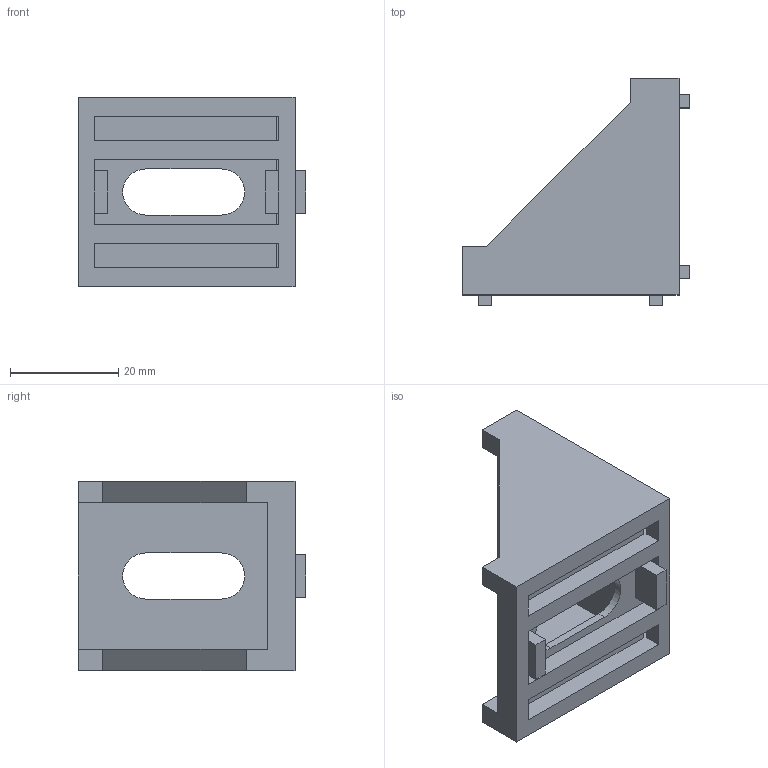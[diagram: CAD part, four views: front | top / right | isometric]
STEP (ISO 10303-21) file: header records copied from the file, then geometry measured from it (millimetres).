
FILE_DESCRIPTION (( 'STEP AP203' ), '1' );
FILE_NAME ('54－CE-RA4040-8.STEP', '2015-07-07T06:48:54', ( '' ), ( '' ), 'SwSTEP 2.0', 'SolidWorks 2013', '' );
FILE_SCHEMA (( 'CONFIG_CONTROL_DESIGN' ));
Length unit declared in the file: millimetre
Products named in the file (1): 54－CE-RA4040-8
Bounding box: 42 x 42 x 35 mm (x, y, z)
Volume: 12930.4 mm3; surface area: 10077 mm2
Topology: 1 solids, 1 shells, 72 faces, 208 edges, 136 vertices
Faces by surface type: plane 66, cylinder 6
Entity records: 2421 total; most frequent: CARTESIAN_POINT 417, ORIENTED_EDGE 416, DIRECTION 366, EDGE_CURVE 208, LINE 196, VECTOR 196, VERTEX_POINT 136, AXIS2_PLACEMENT_3D 85
